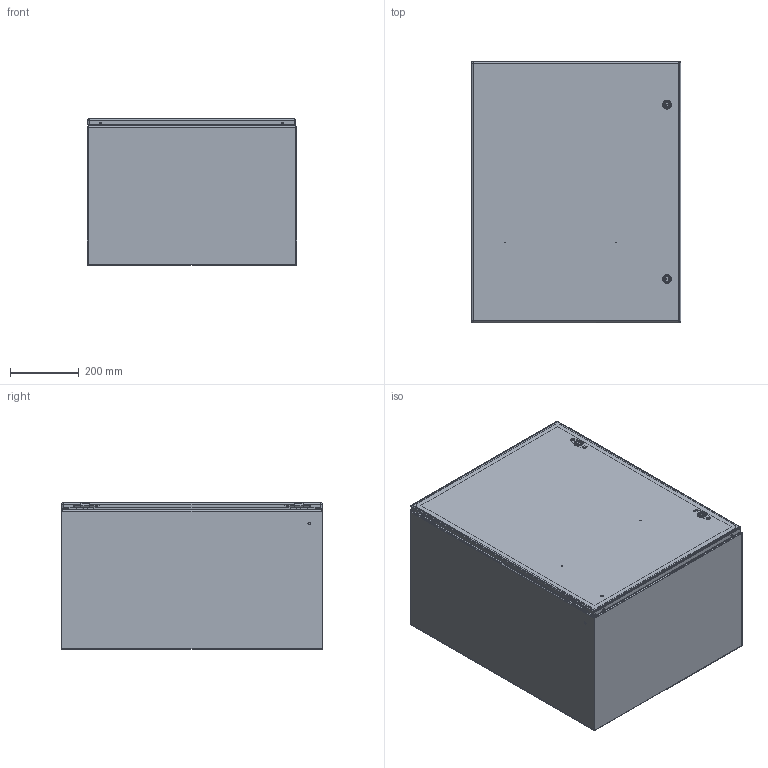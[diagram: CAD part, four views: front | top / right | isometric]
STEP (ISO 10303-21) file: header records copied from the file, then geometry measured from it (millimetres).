
FILE_DESCRIPTION (( 'STEP AP203' ), '1' );
FILE_NAME ('29412.step', '2015-03-30T06:18:04', ( '' ), ( '' ), 'SwSTEP 2.0', 'SolidWorks 2010', '' );
FILE_SCHEMA (( 'CONFIG_CONTROL_DESIGN' ));
Length unit declared in the file: inch
Products named in the file (26): 29412; 89116983; 89116982_default; 89116692_default; 89116691_default; 23271001_After Weld; 87937939_assy; 87937979_weldment; 87937915; 99401225; 87931362_87931362; 64101001; 64201001; 87541994_Installed Height; 87541995; 64202001; 64210001; 64203001; 89057565; 87543027; 89076399; 89076193; 89056623; 87929507; 87929767; 87929769_Installed on Pin
Assembly tree (34 placements, depth 4):
  29412
    89116983
      23271001_After Weld  x4
      99401225
      89116691_default
      89116692_default
      89116982_default
    87937939_assy
      87937979_weldment
        87931362_87931362  x2
        99401225
        87937915
      89057565
      64101001  x2
        64210001
        64202001
        87541995
        64201001
        87541994_Installed Height
        64203001
    89076399  x2
      89056623
      89076193
    87543027  x2
    87929507  x2
      87929769_Installed on Pin
      87929767
Bounding box: 609.6 x 762 x 427.1 mm (x, y, z)
Volume: 4141446 mm3; surface area: 4448056.5 mm2
Topology: 37 solids, 37 shells, 1537 faces, 3802 edges, 2360 vertices
Faces by surface type: plane 631, cylinder 514, bspline 216, torus 104, cone 64, sphere 8
Entity records: 34435 total; most frequent: CARTESIAN_POINT 9747, ORIENTED_EDGE 4580, DIRECTION 4406, EDGE_CURVE 2290, AXIS2_PLACEMENT_3D 1581, VERTEX_POINT 1420, LINE 1244, VECTOR 1244
